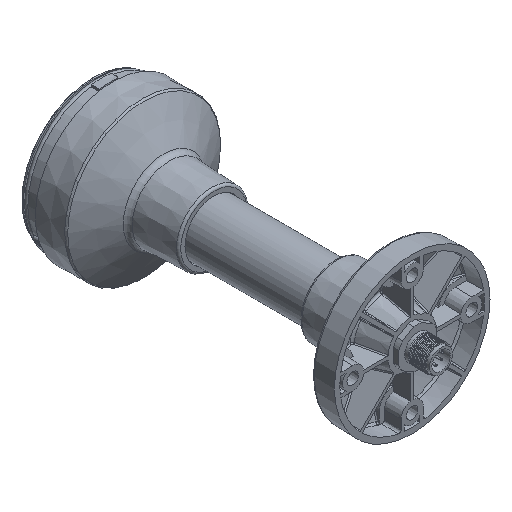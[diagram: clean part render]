
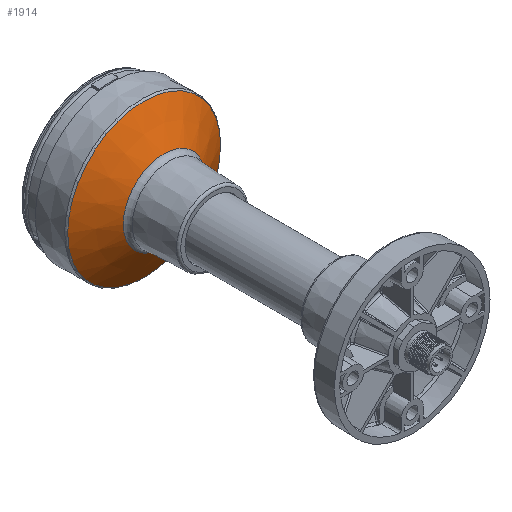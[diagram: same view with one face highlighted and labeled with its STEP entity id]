
A CAD part, isometric view. The second image highlights one B-rep face of the part: STEP entity #1914.
In plain terms, the highlighted conical face has half-angle 60.866 degrees and reference radius 26.566 mm.
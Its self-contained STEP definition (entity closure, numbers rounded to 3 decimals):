
#574=CONICAL_SURFACE('',#19482,26.566,60.866);
#1914=ADVANCED_FACE('',(#3291,#3292),#574,.T.);
#3291=FACE_BOUND('',#3893,.T.);
#3292=FACE_BOUND('',#3894,.T.);
#3893=EDGE_LOOP('',(#10066));
#3894=EDGE_LOOP('',(#10067));
#10066=ORIENTED_EDGE('',*,*,#16546,.F.);
#10067=ORIENTED_EDGE('',*,*,#16547,.T.);
#14407=VERTEX_POINT('',#40905);
#14408=VERTEX_POINT('',#40908);
#16546=EDGE_CURVE('',#14407,#14407,#18527,.T.);
#16547=EDGE_CURVE('',#14408,#14408,#18528,.T.);
#18527=CIRCLE('',#19479,18.46);
#18528=CIRCLE('',#19481,34.672);
#19479=AXIS2_PLACEMENT_3D('',#40904,#22089,#22090);
#19481=AXIS2_PLACEMENT_3D('',#40907,#22093,#22094);
#19482=AXIS2_PLACEMENT_3D('',#40909,#22095,#22096);
#22089=DIRECTION('',(0.,-1.,0.));
#22090=DIRECTION('',(1.,0.,0.));
#22093=DIRECTION('',(0.,-1.,0.));
#22094=DIRECTION('',(1.,0.,0.));
#22095=DIRECTION('',(0.,1.,0.));
#22096=DIRECTION('',(-1.,0.,0.));
#40904=CARTESIAN_POINT('',(0.,26.914,0.));
#40905=CARTESIAN_POINT('',(18.46,26.914,0.));
#40907=CARTESIAN_POINT('',(0.,35.95,0.));
#40908=CARTESIAN_POINT('',(34.672,35.95,0.));
#40909=CARTESIAN_POINT('',(0.,31.432,0.));
